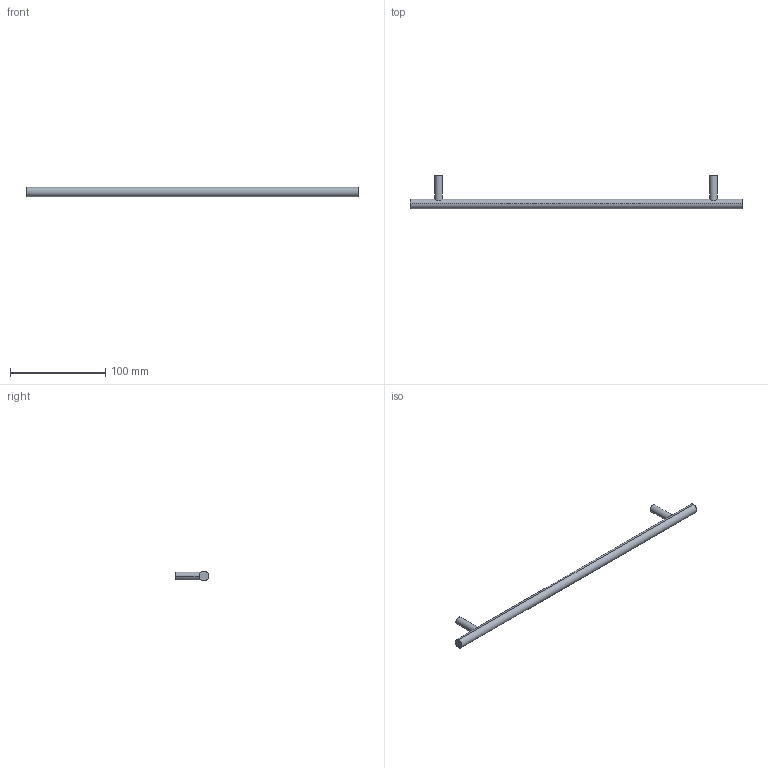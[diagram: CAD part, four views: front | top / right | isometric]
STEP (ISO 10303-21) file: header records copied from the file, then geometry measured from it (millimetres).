
FILE_DESCRIPTION( ( '' ), '1' );
FILE_NAME( 'D:/1.AUTOCAD EXPORT/Group 10/sheet_10_1/9070991.stp', '2013-10-21T10:10:54', ( '' ), ( '' ), ' ', ' ', ' ' );
FILE_SCHEMA( ( 'automotive_design' ) );
Length unit declared in the file: millimetre
Products named in the file (1): 1
Bounding box: 348 x 35 x 10 mm (x, y, z)
Volume: 29587.9 mm3; surface area: 12684.1 mm2
Topology: 1 solids, 1 shells, 16 faces, 32 edges, 22 vertices
Faces by surface type: cylinder 10, plane 6
Entity records: 972 total; most frequent: CARTESIAN_POINT 205, DIRECTION 76, STYLED_ITEM 71, PRESENTATION_STYLE_ASSIGNMENT 71, COLOUR_RGB 71, ORIENTED_EDGE 64, AXIS2_PLACEMENT_3D 33, EDGE_CURVE 32
